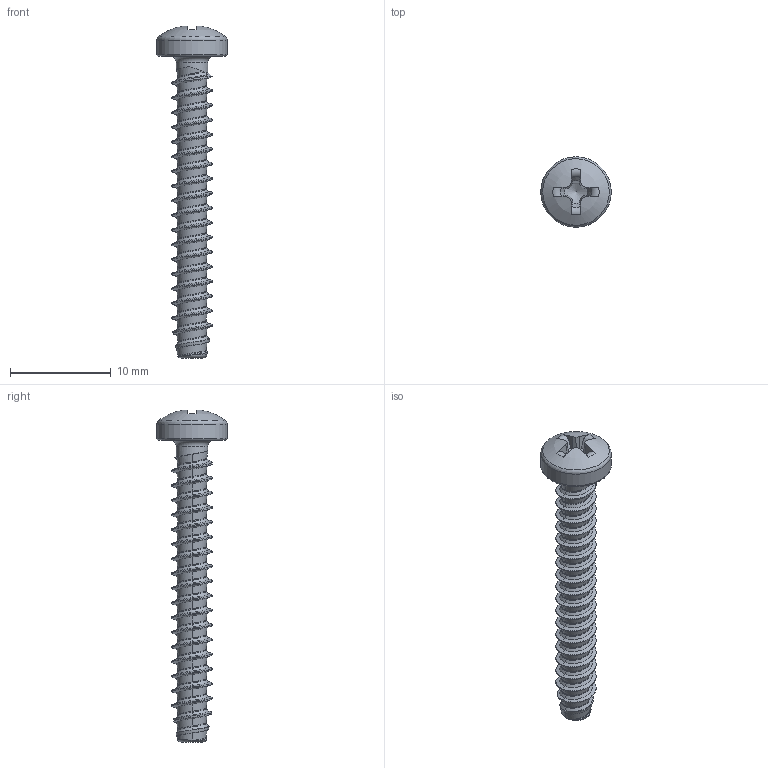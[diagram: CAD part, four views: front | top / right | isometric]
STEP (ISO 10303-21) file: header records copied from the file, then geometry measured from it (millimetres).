
FILE_DESCRIPTION(/* description */ (''),/* implementation_level */ '2;1');
FILE_NAME(/* name */ 'KN6032-STSplus-40x30-H2.step',/* time_stamp */ '2017-10-10T15:12:40+02:00',/* author */ (''),/* organization */ (''),/* preprocessor_version */ 'ST-DEVELOPER v16',/* originating_system */ 'SIEMENS PLM Software NX 10.0',/* authorisation */ '');
FILE_SCHEMA (('AUTOMOTIVE_DESIGN { 1 0 10303 214 3 1 1 1 }'));
Length unit declared in the file: millimetre
Products named in the file (1): KN6032-STSplus-40x30-H2
Bounding box: 7 x 7 x 33.03 mm (x, y, z)
Volume: 317.1 mm3; surface area: 569.6 mm2
Topology: 1 solids, 1 shells, 139 faces, 331 edges, 194 vertices
Faces by surface type: bspline 102, plane 18, torus 8, cone 7, cylinder 3, sphere 1
Full cylindrical faces by diameter (mm): 3.13 x1, 7 x1
Entity records: 9359 total; most frequent: CARTESIAN_POINT 6849, ORIENTED_EDGE 634, EDGE_CURVE 317, DIRECTION 264, VERTEX_POINT 189, B_SPLINE_CURVE_WITH_KNOTS 168, EDGE_LOOP 147, ADVANCED_FACE 139
